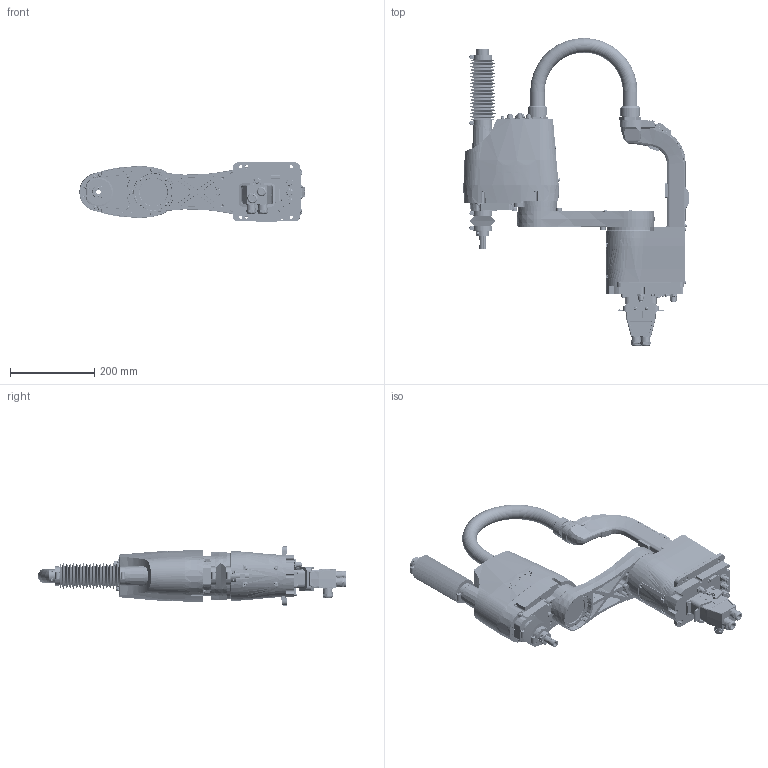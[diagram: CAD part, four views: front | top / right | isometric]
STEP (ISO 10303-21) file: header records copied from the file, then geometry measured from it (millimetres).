
FILE_DESCRIPTION (( 'STEP AP214' ), '1' );
FILE_NAME ('GX4-x351CB.STEP', '2025-01-31T18:01:56', ( '' ), ( '' ), 'SwSTEP 2.0', 'SolidWorks 2020', '' );
FILE_SCHEMA (( 'AUTOMOTIVE_DESIGN' ));
Length unit declared in the file: millimetre
Products named in the file (10): _A351S_CONDUIT; _A251C-short; _A351S_J1_ARM; Angle-B; _Straight; _A251S-a; GX4-x351CB; _A251CBbasesb; _A251C-long; _A251C
Assembly tree (9 placements, depth 2):
  GX4-x351CB
    _A251CBbasesb
    _A351S_J1_ARM
    _A251S-a
    _A251C
    _A251C-long
    _A251C-short
    _A351S_CONDUIT
    _Straight
    Angle-B
Bounding box: 534.54 x 730.7 x 140 mm (x, y, z)
Volume: 9519935.7 mm3; surface area: 1012899.5 mm2
Topology: 9 solids, 9 shells, 6087 faces, 15197 edges, 9808 vertices
Faces by surface type: plane 2817, cylinder 2134, cone 775, torus 206, bspline 153, sphere 2
Entity records: 228682 total; most frequent: CARTESIAN_POINT 50412, ORIENTED_EDGE 30310, DIRECTION 30205, EDGE_CURVE 15155, AXIS2_PLACEMENT_3D 11438, VERTEX_POINT 9808, LINE 7329, VECTOR 7329
